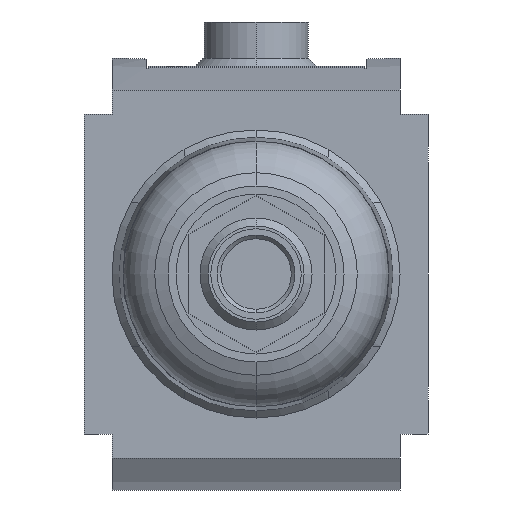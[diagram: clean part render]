
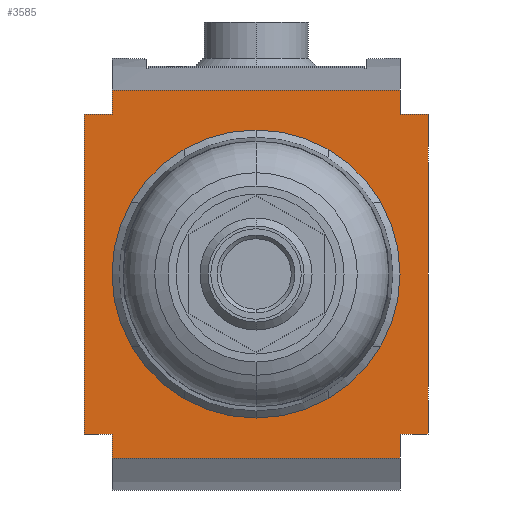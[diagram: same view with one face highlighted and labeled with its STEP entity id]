
A CAD part, front view. The second image highlights one B-rep face of the part: STEP entity #3585.
In plain terms, the highlighted planar face has unit normal (0, -1, 0).
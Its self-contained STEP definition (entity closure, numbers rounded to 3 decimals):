
#37=DIRECTION('',(0.,0.,-1.));
#38=VECTOR('',#37,3.);
#39=CARTESIAN_POINT('',(-18.,-25.,-20.));
#40=LINE('',#39,#38);
#71=DIRECTION('',(0.,0.,-1.));
#72=VECTOR('',#71,3.);
#73=CARTESIAN_POINT('',(-18.,-25.,23.));
#74=LINE('',#73,#72);
#143=DIRECTION('',(0.,0.,-1.));
#144=VECTOR('',#143,3.);
#145=CARTESIAN_POINT('',(18.,-25.,23.));
#146=LINE('',#145,#144);
#177=DIRECTION('',(0.,0.,-1.));
#178=VECTOR('',#177,3.);
#179=CARTESIAN_POINT('',(18.,-25.,-20.));
#180=LINE('',#179,#178);
#210=DIRECTION('',(1.,0.,0.));
#211=VECTOR('',#210,3.5);
#212=CARTESIAN_POINT('',(18.,-25.,20.));
#213=LINE('',#212,#211);
#250=DIRECTION('',(1.,0.,0.));
#251=VECTOR('',#250,3.5);
#252=CARTESIAN_POINT('',(-21.5,-25.,20.));
#253=LINE('',#252,#251);
#521=DIRECTION('',(1.,0.,0.));
#522=VECTOR('',#521,3.5);
#523=CARTESIAN_POINT('',(18.,-25.,-20.));
#524=LINE('',#523,#522);
#587=DIRECTION('',(1.,0.,0.));
#588=VECTOR('',#587,3.5);
#589=CARTESIAN_POINT('',(-21.5,-25.,-20.));
#590=LINE('',#589,#588);
#729=DIRECTION('',(0.,0.,1.));
#730=VECTOR('',#729,40.);
#731=CARTESIAN_POINT('',(21.5,-25.,-20.));
#732=LINE('',#731,#730);
#733=DIRECTION('',(0.,0.,1.));
#734=VECTOR('',#733,40.);
#735=CARTESIAN_POINT('',(-21.5,-25.,-20.));
#736=LINE('',#735,#734);
#737=DIRECTION('',(1.,0.,0.));
#738=VECTOR('',#737,36.);
#739=CARTESIAN_POINT('',(-18.,-25.,23.));
#740=LINE('',#739,#738);
#741=CARTESIAN_POINT('',(0.,-25.,0.));
#742=DIRECTION('',(0.,-1.,0.));
#743=DIRECTION('',(0.866,0.,-0.5));
#744=AXIS2_PLACEMENT_3D('',#741,#742,#743);
#746=DIRECTION('',(1.,0.,0.));
#747=VECTOR('',#746,1.166);
#748=CARTESIAN_POINT('',(14.422,-25.,9.));
#749=LINE('',#748,#747);
#750=CARTESIAN_POINT('',(0.,-25.,0.));
#751=DIRECTION('',(0.,1.,0.));
#752=DIRECTION('',(0.529,0.,0.848));
#753=AXIS2_PLACEMENT_3D('',#750,#751,#752);
#755=DIRECTION('',(0.,0.,-1.));
#756=VECTOR('',#755,1.166);
#757=CARTESIAN_POINT('',(9.,-25.,15.588));
#758=LINE('',#757,#756);
#759=CARTESIAN_POINT('',(0.,-25.,0.));
#760=DIRECTION('',(0.,-1.,0.));
#761=DIRECTION('',(0.5,0.,0.866));
#762=AXIS2_PLACEMENT_3D('',#759,#760,#761);
#764=CARTESIAN_POINT('',(0.,-25.,0.));
#765=DIRECTION('',(0.,-1.,0.));
#766=DIRECTION('',(0.,0.,1.));
#767=AXIS2_PLACEMENT_3D('',#764,#765,#766);
#769=DIRECTION('',(0.,0.,1.));
#770=VECTOR('',#769,1.166);
#771=CARTESIAN_POINT('',(-9.,-25.,14.422));
#772=LINE('',#771,#770);
#773=CARTESIAN_POINT('',(0.,-25.,0.));
#774=DIRECTION('',(0.,1.,0.));
#775=DIRECTION('',(-0.848,0.,0.529));
#776=AXIS2_PLACEMENT_3D('',#773,#774,#775);
#778=DIRECTION('',(1.,0.,0.));
#779=VECTOR('',#778,1.166);
#780=CARTESIAN_POINT('',(-15.588,-25.,9.));
#781=LINE('',#780,#779);
#782=CARTESIAN_POINT('',(0.,-25.,0.));
#783=DIRECTION('',(0.,-1.,0.));
#784=DIRECTION('',(-0.866,0.,0.5));
#785=AXIS2_PLACEMENT_3D('',#782,#783,#784);
#787=DIRECTION('',(-1.,0.,0.));
#788=VECTOR('',#787,1.166);
#789=CARTESIAN_POINT('',(-14.422,-25.,-9.));
#790=LINE('',#789,#788);
#791=CARTESIAN_POINT('',(0.,-25.,0.));
#792=DIRECTION('',(0.,1.,0.));
#793=DIRECTION('',(-0.529,0.,-0.848));
#794=AXIS2_PLACEMENT_3D('',#791,#792,#793);
#796=DIRECTION('',(0.,0.,1.));
#797=VECTOR('',#796,1.166);
#798=CARTESIAN_POINT('',(-9.,-25.,-15.588));
#799=LINE('',#798,#797);
#800=CARTESIAN_POINT('',(0.,-25.,0.));
#801=DIRECTION('',(0.,-1.,0.));
#802=DIRECTION('',(-0.5,0.,-0.866));
#803=AXIS2_PLACEMENT_3D('',#800,#801,#802);
#805=CARTESIAN_POINT('',(0.,-25.,0.));
#806=DIRECTION('',(0.,-1.,0.));
#807=DIRECTION('',(0.,0.,-1.));
#808=AXIS2_PLACEMENT_3D('',#805,#806,#807);
#810=DIRECTION('',(0.,0.,-1.));
#811=VECTOR('',#810,1.166);
#812=CARTESIAN_POINT('',(9.,-25.,-14.422));
#813=LINE('',#812,#811);
#814=CARTESIAN_POINT('',(0.,-25.,0.));
#815=DIRECTION('',(0.,1.,0.));
#816=DIRECTION('',(0.848,0.,-0.529));
#817=AXIS2_PLACEMENT_3D('',#814,#815,#816);
#819=DIRECTION('',(-1.,0.,0.));
#820=VECTOR('',#819,1.166);
#821=CARTESIAN_POINT('',(15.588,-25.,-9.));
#822=LINE('',#821,#820);
#827=DIRECTION('',(1.,0.,0.));
#828=VECTOR('',#827,36.);
#829=CARTESIAN_POINT('',(-18.,-25.,-23.));
#830=LINE('',#829,#828);
#2171=CARTESIAN_POINT('',(-18.,-25.,23.));
#2172=CARTESIAN_POINT('',(18.,-25.,23.));
#2173=VERTEX_POINT('',#2171);
#2174=VERTEX_POINT('',#2172);
#2175=CARTESIAN_POINT('',(-18.,-25.,-23.));
#2176=CARTESIAN_POINT('',(18.,-25.,-23.));
#2177=VERTEX_POINT('',#2175);
#2178=VERTEX_POINT('',#2176);
#2189=CARTESIAN_POINT('',(-21.5,-25.,-20.));
#2190=VERTEX_POINT('',#2189);
#2191=CARTESIAN_POINT('',(21.5,-25.,-20.));
#2193=VERTEX_POINT('',#2191);
#2213=CARTESIAN_POINT('',(-21.5,-25.,20.));
#2214=VERTEX_POINT('',#2213);
#2215=CARTESIAN_POINT('',(21.5,-25.,20.));
#2217=VERTEX_POINT('',#2215);
#2227=CARTESIAN_POINT('',(-18.,-25.,20.));
#2228=VERTEX_POINT('',#2227);
#2229=CARTESIAN_POINT('',(18.,-25.,20.));
#2230=VERTEX_POINT('',#2229);
#2231=CARTESIAN_POINT('',(-18.,-25.,-20.));
#2232=VERTEX_POINT('',#2231);
#2233=CARTESIAN_POINT('',(18.,-25.,-20.));
#2234=VERTEX_POINT('',#2233);
#2679=CARTESIAN_POINT('',(0.,-25.,18.));
#2680=VERTEX_POINT('',#2679);
#2681=CARTESIAN_POINT('',(0.,-25.,-18.));
#2682=VERTEX_POINT('',#2681);
#2683=CARTESIAN_POINT('',(-9.,-25.,-14.422));
#2684=CARTESIAN_POINT('',(-14.422,-25.,-9.));
#2685=VERTEX_POINT('',#2683);
#2686=VERTEX_POINT('',#2684);
#2687=CARTESIAN_POINT('',(-14.422,-25.,9.));
#2688=CARTESIAN_POINT('',(-9.,-25.,14.422));
#2689=VERTEX_POINT('',#2687);
#2690=VERTEX_POINT('',#2688);
#2691=CARTESIAN_POINT('',(14.422,-25.,-9.));
#2692=CARTESIAN_POINT('',(9.,-25.,-14.422));
#2693=VERTEX_POINT('',#2691);
#2694=VERTEX_POINT('',#2692);
#2695=CARTESIAN_POINT('',(9.,-25.,14.422));
#2696=CARTESIAN_POINT('',(14.422,-25.,9.));
#2697=VERTEX_POINT('',#2695);
#2698=VERTEX_POINT('',#2696);
#2716=CARTESIAN_POINT('',(-9.,-25.,-15.588));
#2718=VERTEX_POINT('',#2716);
#2720=CARTESIAN_POINT('',(-15.588,-25.,-9.));
#2722=VERTEX_POINT('',#2720);
#2724=CARTESIAN_POINT('',(-9.,-25.,15.588));
#2726=VERTEX_POINT('',#2724);
#2728=CARTESIAN_POINT('',(-15.588,-25.,9.));
#2730=VERTEX_POINT('',#2728);
#2732=CARTESIAN_POINT('',(9.,-25.,-15.588));
#2734=VERTEX_POINT('',#2732);
#2736=CARTESIAN_POINT('',(15.588,-25.,-9.));
#2738=VERTEX_POINT('',#2736);
#2740=CARTESIAN_POINT('',(15.588,-25.,9.));
#2742=VERTEX_POINT('',#2740);
#2744=CARTESIAN_POINT('',(9.,-25.,15.588));
#2746=VERTEX_POINT('',#2744);
#3525=CARTESIAN_POINT('',(-18.,-25.,23.));
#3526=DIRECTION('',(0.,-1.,0.));
#3527=DIRECTION('',(0.,0.,-1.));
#3528=AXIS2_PLACEMENT_3D('',#3525,#3526,#3527);
#3529=PLANE('',#3528);
#3530=ORIENTED_EDGE('',*,*,#2970,.T.);
#3531=ORIENTED_EDGE('',*,*,#3022,.T.);
#3532=ORIENTED_EDGE('',*,*,#3518,.F.);
#3533=ORIENTED_EDGE('',*,*,#3328,.F.);
#3534=ORIENTED_EDGE('',*,*,#2993,.T.);
#3536=ORIENTED_EDGE('',*,*,#3535,.F.);
#3537=ORIENTED_EDGE('',*,*,#2846,.F.);
#3538=ORIENTED_EDGE('',*,*,#3381,.F.);
#3540=ORIENTED_EDGE('',*,*,#3539,.T.);
#3541=ORIENTED_EDGE('',*,*,#3068,.T.);
#3542=ORIENTED_EDGE('',*,*,#2870,.F.);
#3544=ORIENTED_EDGE('',*,*,#3543,.T.);
#3545=EDGE_LOOP('',(#3530,#3531,#3532,#3533,#3534,#3536,#3537,#3538,#3540,#3541,
#3542,#3544));
#3546=FACE_OUTER_BOUND('',#3545,.F.);
#3548=ORIENTED_EDGE('',*,*,#3547,.T.);
#3550=ORIENTED_EDGE('',*,*,#3549,.F.);
#3552=ORIENTED_EDGE('',*,*,#3551,.F.);
#3554=ORIENTED_EDGE('',*,*,#3553,.F.);
#3556=ORIENTED_EDGE('',*,*,#3555,.T.);
#3558=ORIENTED_EDGE('',*,*,#3557,.T.);
#3560=ORIENTED_EDGE('',*,*,#3559,.F.);
#3562=ORIENTED_EDGE('',*,*,#3561,.F.);
#3564=ORIENTED_EDGE('',*,*,#3563,.F.);
#3566=ORIENTED_EDGE('',*,*,#3565,.T.);
#3568=ORIENTED_EDGE('',*,*,#3567,.F.);
#3570=ORIENTED_EDGE('',*,*,#3569,.F.);
#3572=ORIENTED_EDGE('',*,*,#3571,.F.);
#3574=ORIENTED_EDGE('',*,*,#3573,.T.);
#3576=ORIENTED_EDGE('',*,*,#3575,.T.);
#3578=ORIENTED_EDGE('',*,*,#3577,.F.);
#3580=ORIENTED_EDGE('',*,*,#3579,.F.);
#3582=ORIENTED_EDGE('',*,*,#3581,.F.);
#3583=EDGE_LOOP('',(#3548,#3550,#3552,#3554,#3556,#3558,#3560,#3562,#3564,#3566,
#3568,#3570,#3572,#3574,#3576,#3578,#3580,#3582));
#3584=FACE_BOUND('',#3583,.F.);
#3585=ADVANCED_FACE('',(#3546,#3584),#3529,.T.);
#745=CIRCLE('',#744,18.);
#754=CIRCLE('',#753,17.);
#763=CIRCLE('',#762,18.);
#768=CIRCLE('',#767,18.);
#777=CIRCLE('',#776,17.);
#786=CIRCLE('',#785,18.);
#795=CIRCLE('',#794,17.);
#804=CIRCLE('',#803,18.);
#809=CIRCLE('',#808,18.);
#818=CIRCLE('',#817,17.);
#2846=EDGE_CURVE('',#2232,#2177,#40,.T.);
#2870=EDGE_CURVE('',#2173,#2228,#74,.T.);
#2970=EDGE_CURVE('',#2174,#2230,#146,.T.);
#2993=EDGE_CURVE('',#2234,#2178,#180,.T.);
#3022=EDGE_CURVE('',#2230,#2217,#213,.T.);
#3068=EDGE_CURVE('',#2214,#2228,#253,.T.);
#3328=EDGE_CURVE('',#2234,#2193,#524,.T.);
#3381=EDGE_CURVE('',#2190,#2232,#590,.T.);
#3518=EDGE_CURVE('',#2193,#2217,#732,.T.);
#3535=EDGE_CURVE('',#2177,#2178,#830,.T.);
#3539=EDGE_CURVE('',#2190,#2214,#736,.T.);
#3543=EDGE_CURVE('',#2173,#2174,#740,.T.);
#3547=EDGE_CURVE('',#2738,#2742,#745,.T.);
#3549=EDGE_CURVE('',#2698,#2742,#749,.T.);
#3551=EDGE_CURVE('',#2697,#2698,#754,.T.);
#3553=EDGE_CURVE('',#2746,#2697,#758,.T.);
#3555=EDGE_CURVE('',#2746,#2680,#763,.T.);
#3557=EDGE_CURVE('',#2680,#2726,#768,.T.);
#3559=EDGE_CURVE('',#2690,#2726,#772,.T.);
#3561=EDGE_CURVE('',#2689,#2690,#777,.T.);
#3563=EDGE_CURVE('',#2730,#2689,#781,.T.);
#3565=EDGE_CURVE('',#2730,#2722,#786,.T.);
#3567=EDGE_CURVE('',#2686,#2722,#790,.T.);
#3569=EDGE_CURVE('',#2685,#2686,#795,.T.);
#3571=EDGE_CURVE('',#2718,#2685,#799,.T.);
#3573=EDGE_CURVE('',#2718,#2682,#804,.T.);
#3575=EDGE_CURVE('',#2682,#2734,#809,.T.);
#3577=EDGE_CURVE('',#2694,#2734,#813,.T.);
#3579=EDGE_CURVE('',#2693,#2694,#818,.T.);
#3581=EDGE_CURVE('',#2738,#2693,#822,.T.);
